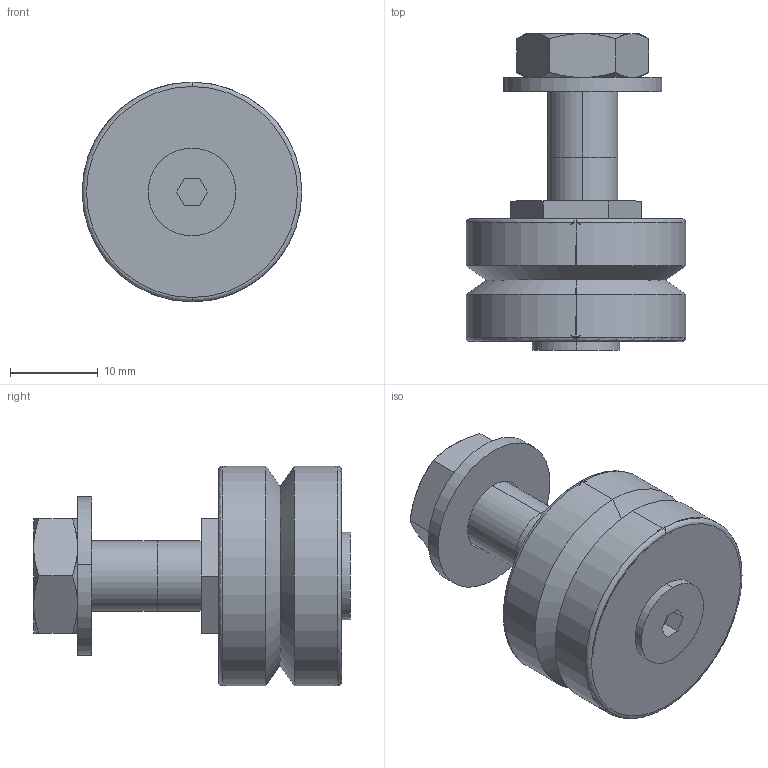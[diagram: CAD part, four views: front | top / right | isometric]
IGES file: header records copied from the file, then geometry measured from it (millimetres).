
Start section: 3D InterOp IGES (Version 21 0 1), Spatial Corp. Copyright (c) 1999-2007.
Global section: file name: NAL-25-E.igs; native system: Spatial Corp.; preprocessor: 3D InterOp GENERIC/IGES 3.0; author: Noname; organization: Noname; date: 20220311.163056; units: millimetre
Bounding box: 25 x 36.05 x 25 mm (x, y, z)
Surface area: 4594.4 mm2 (no closed solid volume)
Topology: 0 solids, 0 shells, 76 faces, 344 edges, 340 vertices
Faces by surface type: revolution 42, extrusion 34
